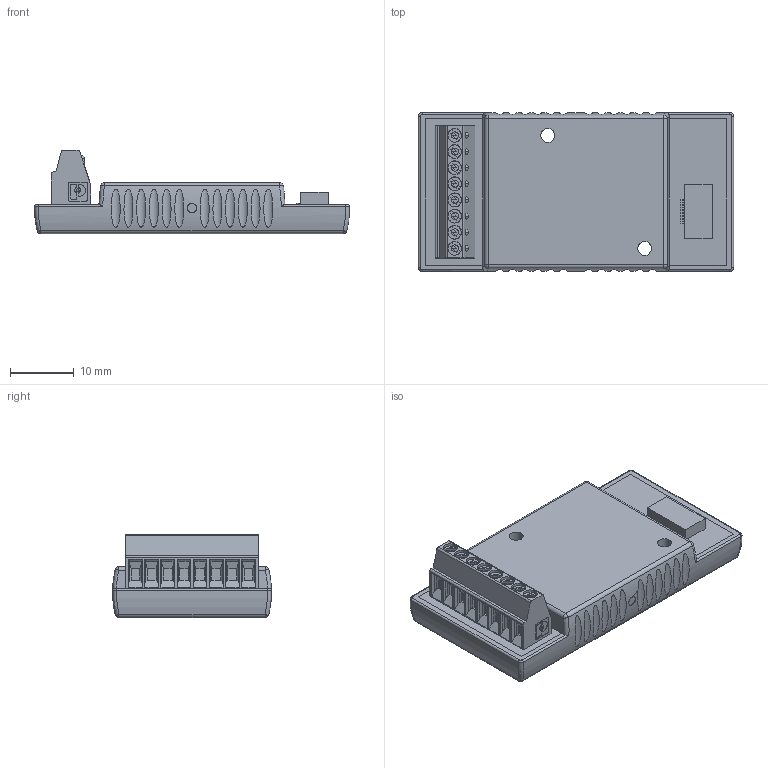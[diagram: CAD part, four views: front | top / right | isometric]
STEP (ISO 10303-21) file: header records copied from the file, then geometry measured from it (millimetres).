
FILE_DESCRIPTION(/* description */ (''),/* implementation_level */ '2;1');
FILE_NAME(/* name */ 'MC3002F.stp',/* time_stamp */ '2012-04-04T10:07:05+02:00',/* author */ ('DR. FRITZ FAULHABER GmbH & Co. KG'),/* organization */ ('DR. FRITZ FAULHABER GmbH & Co. KG'),/* preprocessor_version */ 'ST-DEVELOPER v11',/* originating_system */ 'SIEMENS PLM Software NX 7.5',/* authorisation */ '');
FILE_SCHEMA (('AUTOMOTIVE_DESIGN { 1 0 10303 214 1 1 1 1 }'));
Length unit declared in the file: millimetre
Products named in the file (1): MC3002F
Bounding box: 49.59 x 25 x 13.1 mm (x, y, z)
Volume: 8778.6 mm3; surface area: 4235.1 mm2
Topology: 1 solids, 1 shells, 517 faces, 1209 edges, 753 vertices
Faces by surface type: plane 331, cylinder 146, sphere 24, bspline 12, cone 4
Full cylindrical faces by diameter (mm): 1.5 x1, 2 x4, 2.2 x2
Entity records: 19038 total; most frequent: CARTESIAN_POINT 4134, DIRECTION 2501, ORIENTED_EDGE 2378, EDGE_CURVE 1189, AXIS2_PLACEMENT_3D 869, LINE 763, VECTOR 763, VERTEX_POINT 752
